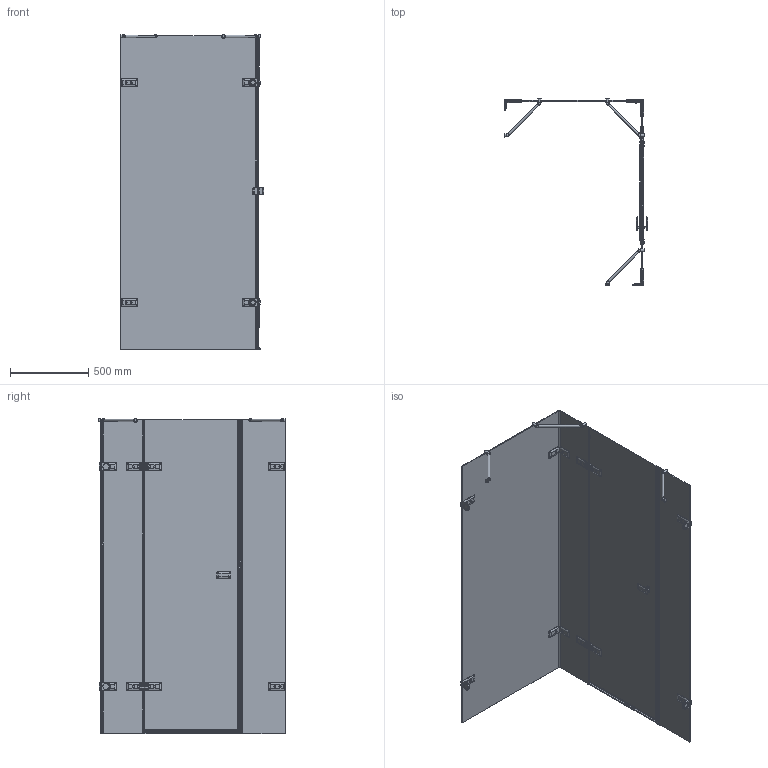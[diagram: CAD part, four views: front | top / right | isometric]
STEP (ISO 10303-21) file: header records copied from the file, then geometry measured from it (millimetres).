
FILE_DESCRIPTION(/* description */ (''),/* implementation_level */ '2;1');
FILE_NAME(/* name */ 'E:\Работа\Сергей\Душевые кабинки\! Работа\++++++++++\TREND RECTAN GK-864BONE\TREND RECTAN GK-864BONE правая модель\TREND RECTAN GK-864BONE ПРАВАЯ-3D.stp',/* time_stamp */ '2018-02-03T10:15:08+03:00',/* author */ ('PC'),/* organization */ (''),/* preprocessor_version */ 'ST-DEVELOPER v15.2',/* originating_system */ 'Autodesk Inventor 2014',/* authorisation */ '');
FILE_SCHEMA (('AUTOMOTIVE_DESIGN { 1 0 10303 214 3 1 1 }'));
Products named in the file (1): TREND RECTAN GK-864BONE ПРАВАЯ-
3D
Bounding box: 912.5 x 1193.5 x 2009.49 mm (x, y, z)
Volume: 26048909.2 mm3; surface area: 8707604 mm2
Topology: 9 solids, 32 shells, 1687 faces, 4450 edges, 2805 vertices
Faces by surface type: plane 926, cylinder 436, bspline 204, torus 64, cone 32, sphere 25
Full cylindrical faces by diameter (mm): 4.917 x8, 6 x4, 9 x8, 13 x4, 15 x3, 20 x6, 26 x2, 28 x4, 28.5 x4, 40 x4
Entity records: 73381 total; most frequent: CARTESIAN_POINT 31593, ORIENTED_EDGE 8476, DIRECTION 7986, EDGE_CURVE 4238, VERTEX_POINT 2761, AXIS2_PLACEMENT_3D 2721, LINE 2544, VECTOR 2544
